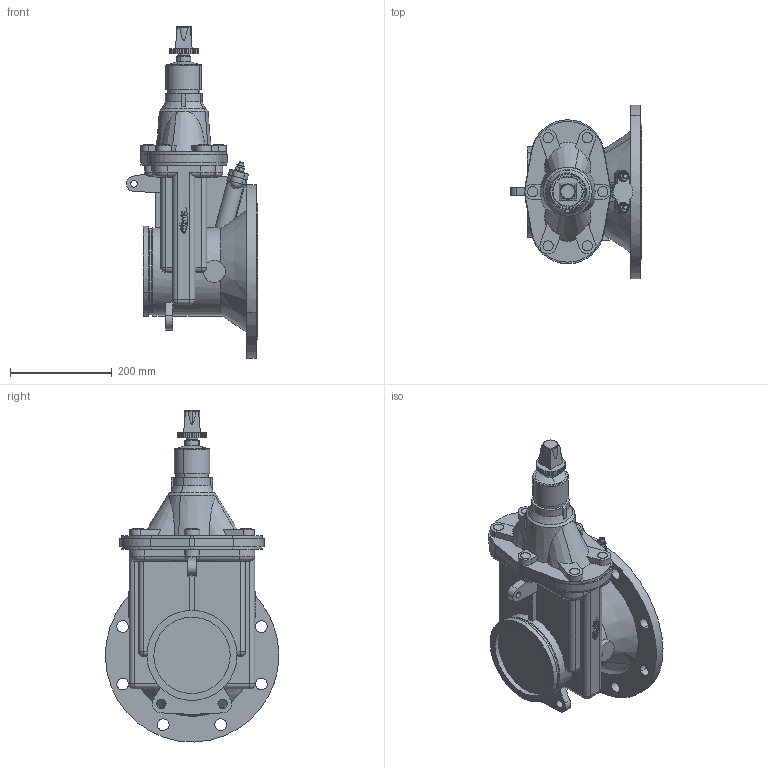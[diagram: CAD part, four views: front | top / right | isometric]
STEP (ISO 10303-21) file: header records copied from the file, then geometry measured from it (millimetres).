
FILE_DESCRIPTION(('CATIA V5 STEP Exchange','CAx-IF Rec.Pracs.--- Model Styling and Organization---1.2---2011-12-15'),'2;1');
FILE_NAME('S:\USER\CAT6\3DPlanerdaten_ab_2012\_pit-cup_ab_03-10-2016\4420\CATIA\4190E2_PN10_DN150-DN200-sauber.stp','2018-04-16T10:00:03+00:00',('none'),('none'),'CATIA Version 5 Release 21 SP 5 (IN-10)','CATIA V5 STEP AP214 Edition 3','none');
FILE_SCHEMA(('AUTOMOTIVE_DESIGN { 1 0 10303 214 3 1 1 1 }'));
Length unit declared in the file: millimetre
Products named in the file (1): 4190E2_PN10_DN150-DN200
Bounding box: 257.55 x 340.51 x 652.25 mm (x, y, z)
Volume: 12655829.8 mm3; surface area: 644435.7 mm2
Topology: 17 solids, 21 shells, 863 faces, 2307 edges, 1505 vertices
Faces by surface type: plane 642, cylinder 167, cone 34, torus 12, sphere 8
Entity records: 26571 total; most frequent: CARTESIAN_POINT 5587, ORIENTED_EDGE 4598, DIRECTION 3620, EDGE_CURVE 2299, VECTOR 1790, LINE 1790, VERTEX_POINT 1505, AXIS2_PLACEMENT_3D 1103
